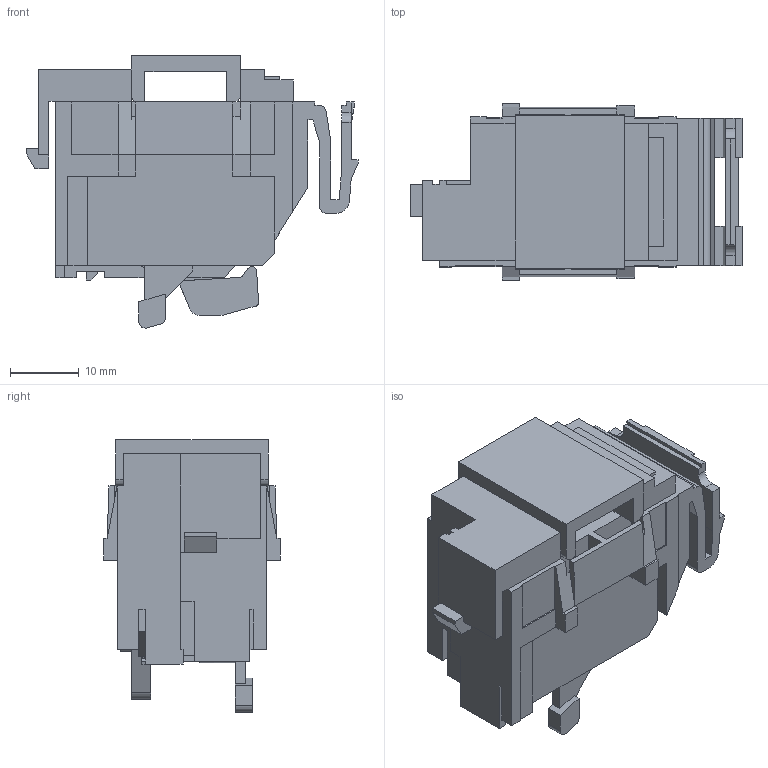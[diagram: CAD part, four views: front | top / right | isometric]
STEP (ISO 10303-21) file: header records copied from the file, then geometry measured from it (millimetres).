
FILE_DESCRIPTION(/* description */ (''),/* implementation_level */ '2;1');
FILE_NAME(/* name */ '2023.11.10.stp',/* time_stamp */ '2023-11-10T14:05:22+08:00',/* author */ (''),/* organization */ (''),/* preprocessor_version */ 'ST-DEVELOPER v16',/* originating_system */ 'SIEMENS PLM Software NX 10.0',/* authorisation */ '');
FILE_SCHEMA (('AUTOMOTIVE_DESIGN { 1 0 10303 214 3 1 1 1 }'));
Length unit declared in the file: millimetre
Products named in the file (1): midi08580DE3vs99
Bounding box: 48.3 x 25.7 x 39.59 mm (x, y, z)
Volume: 16731.3 mm3; surface area: 9517.7 mm2
Topology: 1 solids, 1 shells, 310 faces, 931 edges, 601 vertices
Faces by surface type: plane 286, cylinder 24
Full cylindrical faces by diameter (mm): 3 x2
Entity records: 10272 total; most frequent: ORIENTED_EDGE 1854, CARTESIAN_POINT 1837, DIRECTION 1602, EDGE_CURVE 927, LINE 874, VECTOR 874, VERTEX_POINT 599, AXIS2_PLACEMENT_3D 364
